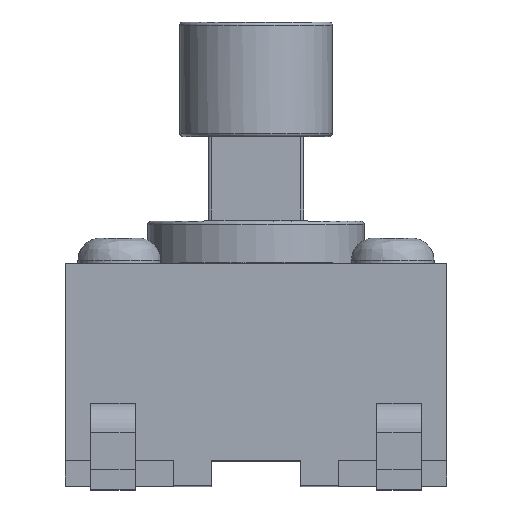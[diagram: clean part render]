
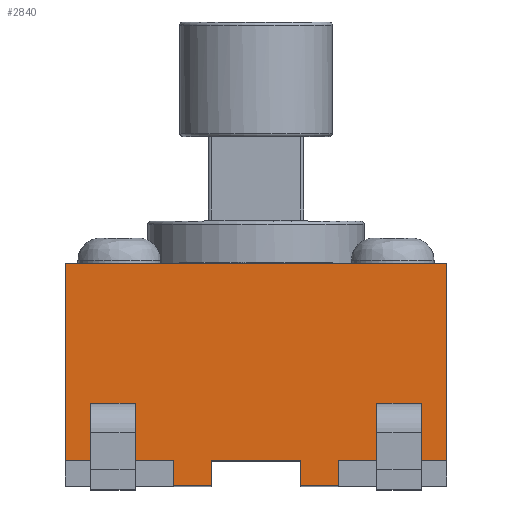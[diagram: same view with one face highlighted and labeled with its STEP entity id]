
A CAD part, top view. The second image highlights one B-rep face of the part: STEP entity #2840.
In plain terms, the highlighted planar face has unit normal (0, 0, 1).
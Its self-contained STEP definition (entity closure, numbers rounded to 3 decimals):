
#5=DIRECTION('',(0.,-1.,0.));
#6=VECTOR('',#5,0.4);
#7=CARTESIAN_POINT('',(-0.7,0.4,3.));
#8=LINE('',#7,#6);
#9=DIRECTION('',(-1.,0.,0.));
#10=VECTOR('',#9,0.6);
#11=CARTESIAN_POINT('',(-0.7,0.,3.));
#12=LINE('',#11,#10);
#17=DIRECTION('',(0.,-1.,0.));
#18=VECTOR('',#17,0.4);
#19=CARTESIAN_POINT('',(-1.3,0.4,3.));
#20=LINE('',#19,#18);
#29=DIRECTION('',(0.,-1.,0.));
#30=VECTOR('',#29,3.1);
#31=CARTESIAN_POINT('',(-3.,3.5,3.));
#32=LINE('',#31,#30);
#77=DIRECTION('',(1.,0.,0.));
#78=VECTOR('',#77,1.4);
#79=CARTESIAN_POINT('',(-0.7,0.4,3.));
#80=LINE('',#79,#78);
#97=DIRECTION('',(0.,-1.,0.));
#98=VECTOR('',#97,0.4);
#99=CARTESIAN_POINT('',(0.7,0.4,3.));
#100=LINE('',#99,#98);
#105=DIRECTION('',(1.,0.,0.));
#106=VECTOR('',#105,0.6);
#107=CARTESIAN_POINT('',(0.7,0.,3.));
#108=LINE('',#107,#106);
#117=DIRECTION('',(0.,1.,0.));
#118=VECTOR('',#117,0.4);
#119=CARTESIAN_POINT('',(1.3,0.,3.));
#120=LINE('',#119,#118);
#125=DIRECTION('',(1.,0.,0.));
#126=VECTOR('',#125,1.7);
#127=CARTESIAN_POINT('',(1.3,0.4,3.));
#128=LINE('',#127,#126);
#141=DIRECTION('',(0.,1.,0.));
#142=VECTOR('',#141,3.1);
#143=CARTESIAN_POINT('',(3.,0.4,3.));
#144=LINE('',#143,#142);
#257=DIRECTION('',(-1.,0.,0.));
#258=VECTOR('',#257,6.);
#259=CARTESIAN_POINT('',(3.,3.5,3.));
#260=LINE('',#259,#258);
#1733=DIRECTION('',(1.,0.,0.));
#1734=VECTOR('',#1733,1.7);
#1735=CARTESIAN_POINT('',(-3.,0.4,3.));
#1736=LINE('',#1735,#1734);
#1789=DIRECTION('',(0.,-1.,0.));
#1790=VECTOR('',#1789,0.3);
#1791=CARTESIAN_POINT('',(2.6,1.3,3.));
#1792=LINE('',#1791,#1790);
#1817=DIRECTION('',(1.,0.,0.));
#1818=VECTOR('',#1817,0.7);
#1819=CARTESIAN_POINT('',(1.9,1.3,3.));
#1820=LINE('',#1819,#1818);
#1881=DIRECTION('',(-1.,0.,0.));
#1882=VECTOR('',#1881,0.7);
#1883=CARTESIAN_POINT('',(2.6,1.,3.));
#1884=LINE('',#1883,#1882);
#1937=DIRECTION('',(0.,1.,0.));
#1938=VECTOR('',#1937,0.3);
#1939=CARTESIAN_POINT('',(1.9,1.,3.));
#1940=LINE('',#1939,#1938);
#1961=DIRECTION('',(0.,1.,0.));
#1962=VECTOR('',#1961,0.3);
#1963=CARTESIAN_POINT('',(-2.6,1.,3.));
#1964=LINE('',#1963,#1962);
#1969=DIRECTION('',(1.,0.,0.));
#1970=VECTOR('',#1969,0.7);
#1971=CARTESIAN_POINT('',(-2.6,1.3,3.));
#1972=LINE('',#1971,#1970);
#1977=DIRECTION('',(0.,-1.,0.));
#1978=VECTOR('',#1977,0.3);
#1979=CARTESIAN_POINT('',(-1.9,1.3,3.));
#1980=LINE('',#1979,#1978);
#2009=DIRECTION('',(-1.,0.,0.));
#2010=VECTOR('',#2009,0.7);
#2011=CARTESIAN_POINT('',(-1.9,1.,3.));
#2012=LINE('',#2011,#2010);
#2094=CARTESIAN_POINT('',(-0.7,0.,3.));
#2096=VERTEX_POINT('',#2094);
#2111=CARTESIAN_POINT('',(-1.3,0.,3.));
#2112=VERTEX_POINT('',#2111);
#2113=CARTESIAN_POINT('',(-0.7,0.4,3.));
#2114=VERTEX_POINT('',#2113);
#2115=CARTESIAN_POINT('',(-1.3,0.4,3.));
#2116=VERTEX_POINT('',#2115);
#2117=CARTESIAN_POINT('',(-3.,3.5,3.));
#2118=CARTESIAN_POINT('',(-3.,0.4,3.));
#2119=VERTEX_POINT('',#2117);
#2120=VERTEX_POINT('',#2118);
#2121=CARTESIAN_POINT('',(3.,3.5,3.));
#2122=VERTEX_POINT('',#2121);
#2123=CARTESIAN_POINT('',(1.3,0.4,3.));
#2124=CARTESIAN_POINT('',(3.,0.4,3.));
#2125=VERTEX_POINT('',#2123);
#2126=VERTEX_POINT('',#2124);
#2127=CARTESIAN_POINT('',(0.7,0.4,3.));
#2128=CARTESIAN_POINT('',(0.7,0.,3.));
#2129=VERTEX_POINT('',#2127);
#2130=VERTEX_POINT('',#2128);
#2131=CARTESIAN_POINT('',(2.6,1.3,3.));
#2132=CARTESIAN_POINT('',(2.6,1.,3.));
#2133=VERTEX_POINT('',#2131);
#2134=VERTEX_POINT('',#2132);
#2135=CARTESIAN_POINT('',(1.9,1.3,3.));
#2136=VERTEX_POINT('',#2135);
#2137=CARTESIAN_POINT('',(-1.9,1.,3.));
#2138=CARTESIAN_POINT('',(-2.6,1.,3.));
#2139=VERTEX_POINT('',#2137);
#2140=VERTEX_POINT('',#2138);
#2141=CARTESIAN_POINT('',(-1.9,1.3,3.));
#2142=VERTEX_POINT('',#2141);
#2189=CARTESIAN_POINT('',(1.3,0.,3.));
#2190=VERTEX_POINT('',#2189);
#2484=CARTESIAN_POINT('',(1.9,1.,3.));
#2485=VERTEX_POINT('',#2484);
#2502=CARTESIAN_POINT('',(-2.6,1.3,3.));
#2503=VERTEX_POINT('',#2502);
#2791=CARTESIAN_POINT('',(0.,1.75,3.));
#2792=DIRECTION('',(0.,0.,1.));
#2793=DIRECTION('',(1.,0.,0.));
#2794=AXIS2_PLACEMENT_3D('',#2791,#2792,#2793);
#2795=PLANE('',#2794);
#2796=ORIENTED_EDGE('',*,*,#2782,.T.);
#2797=ORIENTED_EDGE('',*,*,#2771,.T.);
#2799=ORIENTED_EDGE('',*,*,#2798,.F.);
#2801=ORIENTED_EDGE('',*,*,#2800,.F.);
#2803=ORIENTED_EDGE('',*,*,#2802,.F.);
#2805=ORIENTED_EDGE('',*,*,#2804,.F.);
#2807=ORIENTED_EDGE('',*,*,#2806,.F.);
#2809=ORIENTED_EDGE('',*,*,#2808,.F.);
#2811=ORIENTED_EDGE('',*,*,#2810,.F.);
#2813=ORIENTED_EDGE('',*,*,#2812,.F.);
#2815=ORIENTED_EDGE('',*,*,#2814,.F.);
#2817=ORIENTED_EDGE('',*,*,#2816,.F.);
#2818=EDGE_LOOP('',(#2796,#2797,#2799,#2801,#2803,#2805,#2807,#2809,#2811,#2813,
#2815,#2817));
#2819=FACE_OUTER_BOUND('',#2818,.F.);
#2821=ORIENTED_EDGE('',*,*,#2820,.F.);
#2823=ORIENTED_EDGE('',*,*,#2822,.F.);
#2825=ORIENTED_EDGE('',*,*,#2824,.F.);
#2827=ORIENTED_EDGE('',*,*,#2826,.F.);
#2828=EDGE_LOOP('',(#2821,#2823,#2825,#2827));
#2829=FACE_BOUND('',#2828,.F.);
#2831=ORIENTED_EDGE('',*,*,#2830,.F.);
#2833=ORIENTED_EDGE('',*,*,#2832,.F.);
#2835=ORIENTED_EDGE('',*,*,#2834,.F.);
#2837=ORIENTED_EDGE('',*,*,#2836,.F.);
#2838=EDGE_LOOP('',(#2831,#2833,#2835,#2837));
#2839=FACE_BOUND('',#2838,.F.);
#2771=EDGE_CURVE('',#2096,#2112,#12,.T.);
#2782=EDGE_CURVE('',#2114,#2096,#8,.T.);
#2798=EDGE_CURVE('',#2116,#2112,#20,.T.);
#2800=EDGE_CURVE('',#2120,#2116,#1736,.T.);
#2802=EDGE_CURVE('',#2119,#2120,#32,.T.);
#2804=EDGE_CURVE('',#2122,#2119,#260,.T.);
#2806=EDGE_CURVE('',#2126,#2122,#144,.T.);
#2808=EDGE_CURVE('',#2125,#2126,#128,.T.);
#2810=EDGE_CURVE('',#2190,#2125,#120,.T.);
#2812=EDGE_CURVE('',#2130,#2190,#108,.T.);
#2814=EDGE_CURVE('',#2129,#2130,#100,.T.);
#2816=EDGE_CURVE('',#2114,#2129,#80,.T.);
#2820=EDGE_CURVE('',#2133,#2134,#1792,.T.);
#2822=EDGE_CURVE('',#2136,#2133,#1820,.T.);
#2824=EDGE_CURVE('',#2485,#2136,#1940,.T.);
#2826=EDGE_CURVE('',#2134,#2485,#1884,.T.);
#2830=EDGE_CURVE('',#2140,#2503,#1964,.T.);
#2832=EDGE_CURVE('',#2139,#2140,#2012,.T.);
#2834=EDGE_CURVE('',#2142,#2139,#1980,.T.);
#2836=EDGE_CURVE('',#2503,#2142,#1972,.T.);
#2840=ADVANCED_FACE('',(#2819,#2829,#2839),#2795,.T.);
